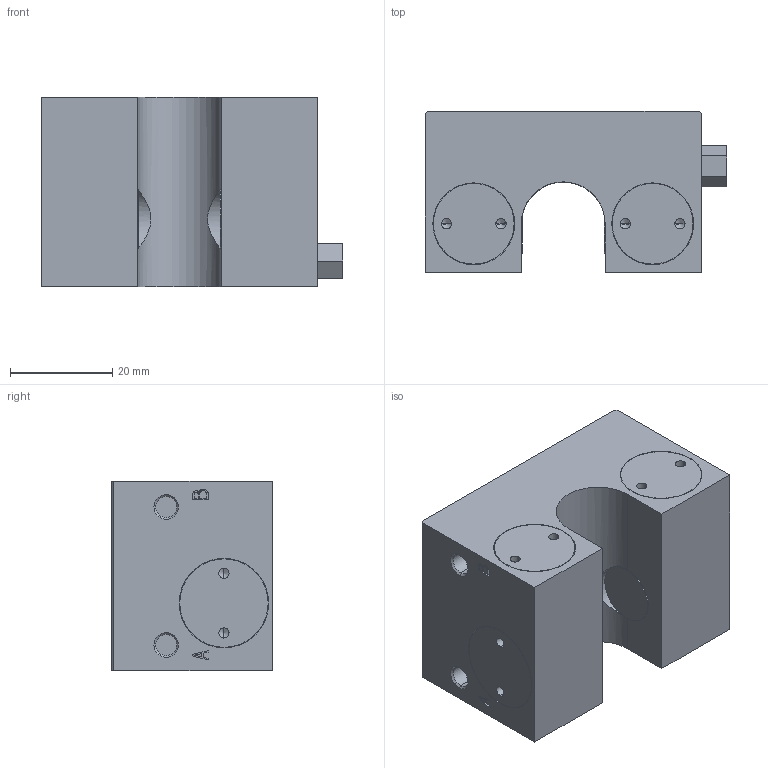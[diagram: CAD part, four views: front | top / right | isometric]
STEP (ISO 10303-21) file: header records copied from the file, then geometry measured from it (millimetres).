
FILE_DESCRIPTION( ( '' ), '1' );
FILE_NAME( 'E:/04 嬴檜蠱滌/0404 ZIMMER/040414 ZIMMER CAD download/MKR/MKR1600A-A.stp', '2020-04-16T10:10:03', ( '' ), ( '' ), ' ', ' ', ' ' );
FILE_SCHEMA( ( 'automotive_design' ) );
Length unit declared in the file: millimetre
Products named in the file (1): 1
Bounding box: 59 x 31.5 x 37 mm (x, y, z)
Volume: 52705.8 mm3; surface area: 12751.9 mm2
Topology: 1 solids, 2 shells, 184 faces, 426 edges, 264 vertices
Faces by surface type: plane 87, cylinder 65, cone 32
Entity records: 10132 total; most frequent: CARTESIAN_POINT 1049, DIRECTION 914, STYLED_ITEM 859, PRESENTATION_STYLE_ASSIGNMENT 859, COLOUR_RGB 859, ORIENTED_EDGE 820, EDGE_CURVE 410, CURVE_STYLE 410
